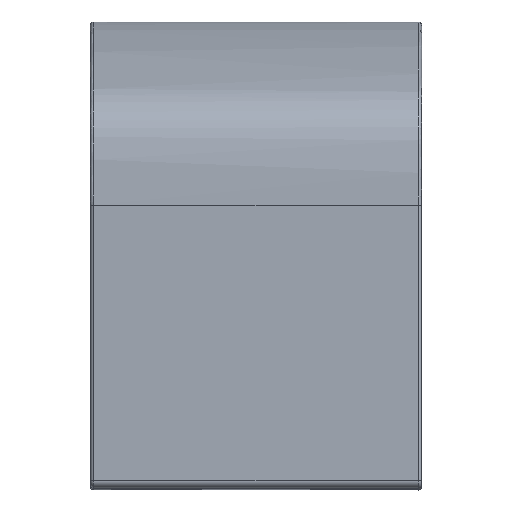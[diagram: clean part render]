
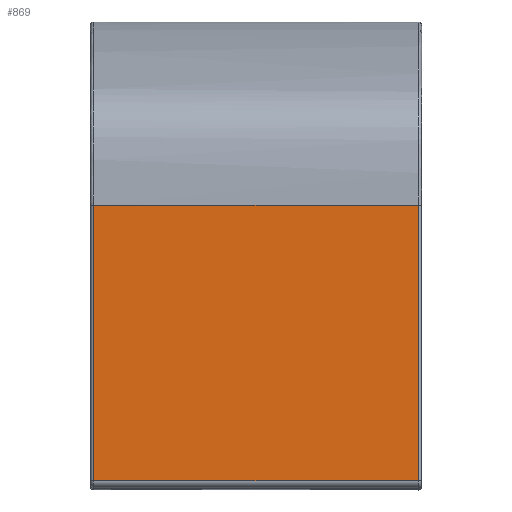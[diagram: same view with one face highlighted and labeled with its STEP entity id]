
A CAD part, front view. The second image highlights one B-rep face of the part: STEP entity #869.
In plain terms, the highlighted planar face has unit normal (0, -1, 0).
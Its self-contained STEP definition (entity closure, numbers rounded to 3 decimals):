
#38=LINE('',#2495,#62);
#43=LINE('',#4337,#67);
#44=LINE('',#4371,#68);
#45=LINE('',#4372,#69);
#62=VECTOR('',#1032,10.);
#67=VECTOR('',#1065,10.);
#68=VECTOR('',#1068,10.);
#69=VECTOR('',#1069,10.);
#80=PLANE('',#947);
#125=FACE_OUTER_BOUND('',#186,.T.);
#186=EDGE_LOOP('',(#702,#703,#704,#705));
#354=VERTEX_POINT('',#2492);
#355=VERTEX_POINT('',#2494);
#373=VERTEX_POINT('',#4336);
#374=VERTEX_POINT('',#4370);
#454=EDGE_CURVE('',#354,#355,#38,.T.);
#489=EDGE_CURVE('',#355,#373,#43,.T.);
#491=EDGE_CURVE('',#374,#354,#44,.T.);
#492=EDGE_CURVE('',#373,#374,#45,.T.);
#702=ORIENTED_EDGE('',*,*,#454,.F.);
#703=ORIENTED_EDGE('',*,*,#491,.F.);
#704=ORIENTED_EDGE('',*,*,#492,.F.);
#705=ORIENTED_EDGE('',*,*,#489,.F.);
#869=ADVANCED_FACE('',(#125),#80,.T.);
#947=AXIS2_PLACEMENT_3D('',#4369,#1066,#1067);
#1032=DIRECTION('',(0.,0.,1.));
#1065=DIRECTION('',(1.,0.,0.));
#1066=DIRECTION('center_axis',(0.,-1.,0.));
#1067=DIRECTION('ref_axis',(1.,0.,0.));
#1068=DIRECTION('',(-1.,0.,0.));
#1069=DIRECTION('',(0.,0.,-1.));
#2492=CARTESIAN_POINT('',(-235.,0.,-82.297));
#2494=CARTESIAN_POINT('',(-235.,0.,316.752));
#2495=CARTESIAN_POINT('',(-235.,0.,-93.297));
#4336=CARTESIAN_POINT('',(235.,0.,316.752));
#4337=CARTESIAN_POINT('',(240.,0.,316.752));
#4369=CARTESIAN_POINT('Origin',(-240.,0.,-93.297));
#4370=CARTESIAN_POINT('',(235.,0.,-82.297));
#4371=CARTESIAN_POINT('',(-120.,0.,-82.297));
#4372=CARTESIAN_POINT('',(235.,0.,-93.297));
